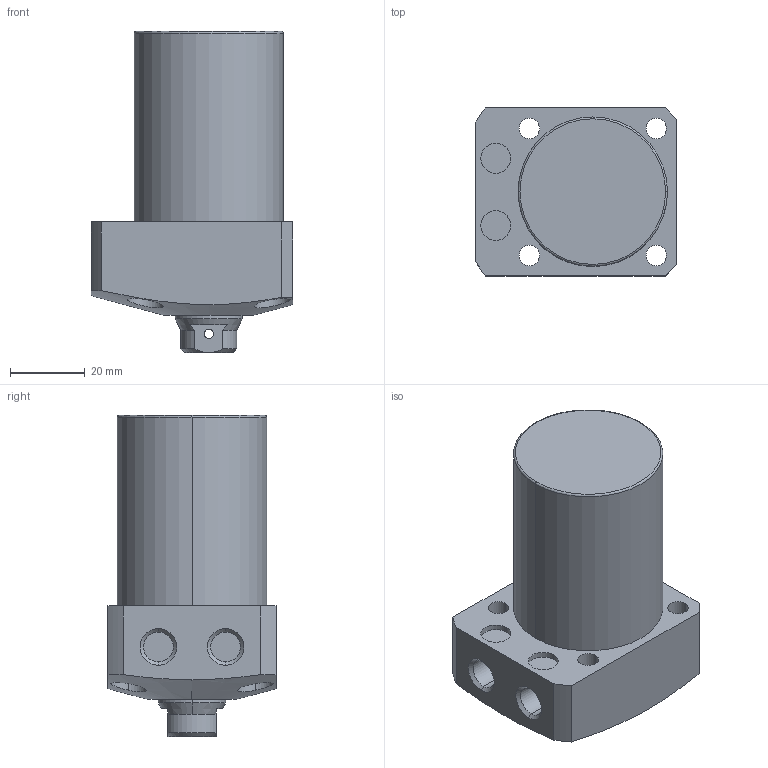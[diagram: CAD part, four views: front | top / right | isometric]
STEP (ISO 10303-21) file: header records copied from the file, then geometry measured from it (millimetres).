
FILE_DESCRIPTION (( 'STEP AP203' ), '1' );
FILE_NAME ('CLL-0400-CB-40.STEP', '2017-05-09T05:48:00', ( '' ), ( '' ), 'SwSTEP 2.0', 'SolidWorks 2015', '' );
FILE_SCHEMA (( 'CONFIG_CONTROL_DESIGN' ));
Length unit declared in the file: millimetre
Products named in the file (1): CLL-0400-CB-40
Bounding box: 54 x 45 x 86 mm (x, y, z)
Volume: 115504.6 mm3; surface area: 18337.2 mm2
Topology: 1 solids, 1 shells, 78 faces, 182 edges, 115 vertices
Faces by surface type: cylinder 39, plane 22, cone 15, torus 2
Entity records: 2728 total; most frequent: CARTESIAN_POINT 829, DIRECTION 394, ORIENTED_EDGE 360, EDGE_CURVE 180, AXIS2_PLACEMENT_3D 163, VERTEX_POINT 115, EDGE_LOOP 101, CIRCLE 84
